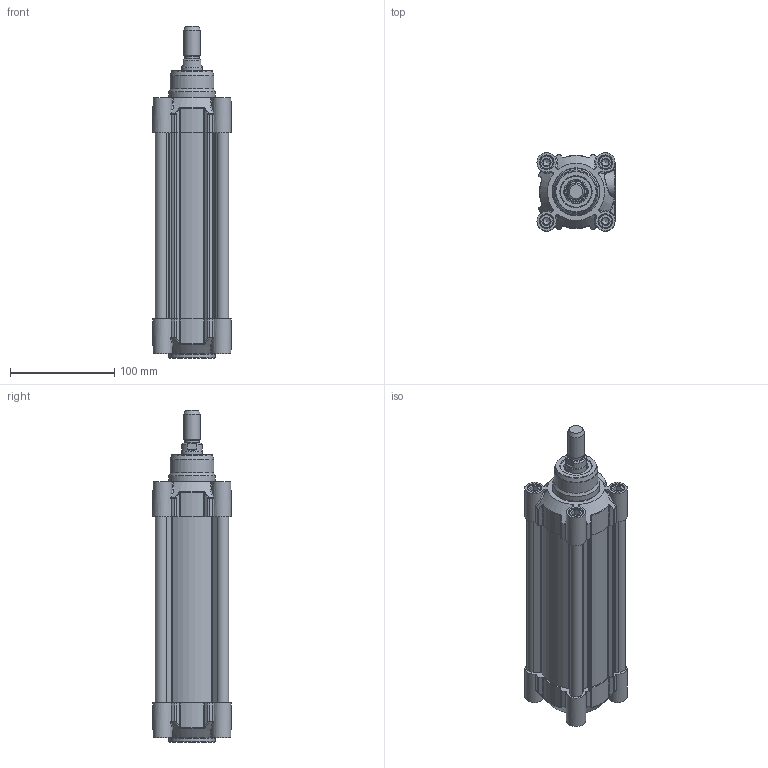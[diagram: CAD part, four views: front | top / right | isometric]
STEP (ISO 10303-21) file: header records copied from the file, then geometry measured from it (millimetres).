
FILE_DESCRIPTION(/* description */ ('CILINDRO D.E. MAGNETICO AMMORTIZZATO ISO 15552'),/* implementation_level */ '2;1');
FILE_NAME(/* name */ 'T:\Archivio Inventor\- 00 NUOVI STP PER SITO CON STELO CHE SI MUOVE\SERIE H - U\SERIE HDM\HDM063 - TUBO NUOVO\HDM063.125.GS.M.stp',/* time_stamp */ '2018-07-30T14:34:35+02:00',/* author */ ('carlo.corazza'),/* organization */ (''),/* preprocessor_version */ 'ST-DEVELOPER v16.5',/* originating_system */ 'Autodesk Inventor 2017',/* authorisation */ '');
FILE_SCHEMA (('AUTOMOTIVE_DESIGN { 1 0 10303 214 3 1 1 }'));
Length unit declared in the file: millimetre
Products named in the file (5): HDM063.125.GS.M; TP; TA; STELO-125; CORPO-125
Assembly tree (4 placements, depth 2):
  HDM063.125.GS.M
    TP
    TA
    STELO-125
    CORPO-125
Bounding box: 75 x 75 x 319 mm (x, y, z)
Volume: 525590.1 mm3; surface area: 230716.3 mm2
Topology: 4 solids, 27 shells, 1241 faces, 2936 edges, 1818 vertices
Faces by surface type: plane 368, cylinder 297, bspline 288, torus 108, cone 106, sphere 74
Full cylindrical faces by diameter (mm): 3 x2, 3.4 x2, 4.8 x2, 5.25 x2, 6.647 x8, 8 x8, 8.3 x12, 9.8 x4, 9.9 x2, 10 x6, 12 x3, 13 x8, 13.3 x8, 13.5 x1, 14.95 x2, 16 x1, 19.5 x1, 20 x1, 20.8 x1, 20.847 x1, 24 x1, 26 x2, 30 x3, 42 x1, 45 x2, 63 x1
Entity records: 40772 total; most frequent: CARTESIAN_POINT 13075, ORIENTED_EDGE 5326, DIRECTION 5100, EDGE_CURVE 2663, AXIS2_PLACEMENT_3D 2037, VERTEX_POINT 1763, EDGE_LOOP 1576, STYLED_ITEM 1245
